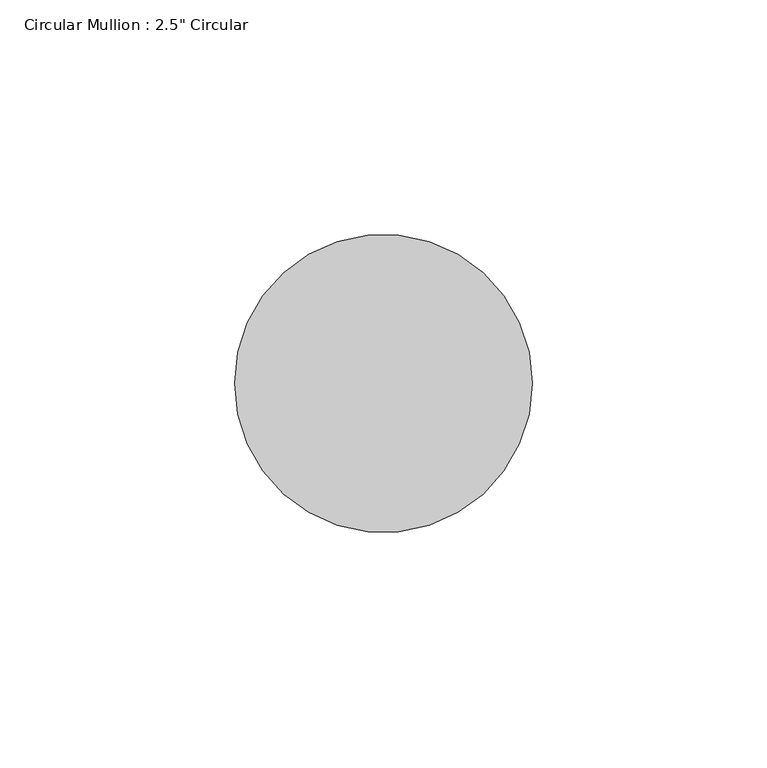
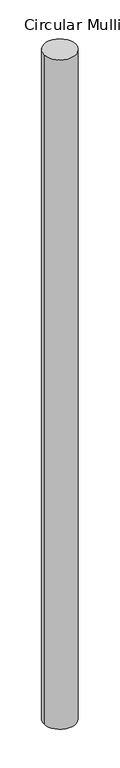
"""IFC4 building model written with IfcOpenShell, lengths in millimetres: member geometry."""

from ifc_helpers import new_model, si_unit, point, frame, frame_2d, origin, place, context, project, spatial, circle_curve, trimmed, segment, composite_curve, outline, extrude, source, transform, mapped, element, save


def member_3d2d24fd(model_context):
    return source(origin(), model_context, "Body", "SweptSolid", [
        extrude(outline(composite_curve([segment(trimmed(circle_curve(frame_2d((-31.75, 0.0)), 31.75), [point((0.0, 0.0))], [point((-63.5, 0.0))], False, "CARTESIAN"), True, "CONTINUOUS"), segment(trimmed(circle_curve(frame_2d((-31.75, 0.0)), 31.75), [point((-63.5, 0.0))], [point((0.0, 0.0))], False, "CARTESIAN"), True, "CONTINUOUS")], self_intersect=False)), frame((0.0, 0.0, -1407.3481885), z_axis=(0.0, 0.0, 1.0), x_axis=(1.0, 0.0, 0.0)), (0.0, 0.0, 1.0), 1407.3481885),
    ])


if __name__ == "__main__":
    model = new_model("IFC4")
    model_context = context("Model", 3, world=origin())
    ifc_project = project(units=[si_unit("LENGTHUNIT", "METRE", prefix="MILLI")], contexts=[model_context])
    site = spatial("IfcSite", under=ifc_project)
    building = spatial("IfcBuilding", under=site)
    placement = place(None, origin())
    member_shape = member_3d2d24fd(model_context)
    element("IfcMember", 1, ObjectType="Circular Mullion : 2.5\" Circular", at=placement, inside=building, context=model_context, shape_type="MappedRepresentation", body=[
        mapped(member_shape, transform((0.0, 0.0, 0.0), x_axis=(1.0, 0.0, 0.0), y_axis=(0.0, 1.0, 0.0), z_axis=(0.0, 0.0, 1.0))),
    ])
    save(model, "model.ifc")
